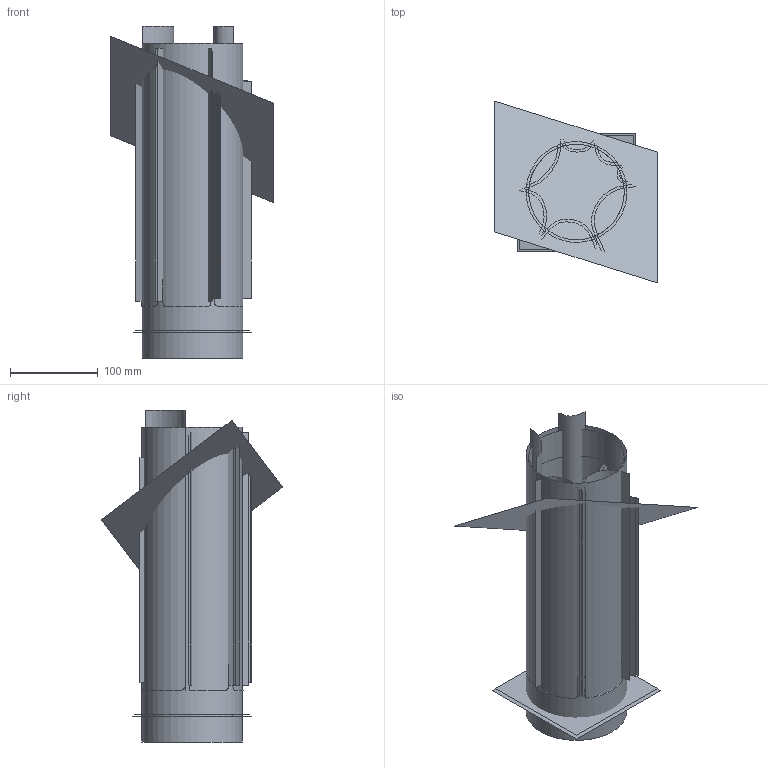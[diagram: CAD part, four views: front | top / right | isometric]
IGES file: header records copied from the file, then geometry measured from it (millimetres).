
Global section: file name: C:\Users\utente\Desktop\3d sito\BAMBU\BAMBU h 30.igs; native system: Rhinoceros ( Mar  9 2011 ); preprocessor: Trout Lake IGES 012 Mar  9 2011; date: 170517.151111; units: millimetre
Bounding box: 185.51 x 207.64 x 378.96 mm (x, y, z)
Surface area: 670588.9 mm2 (no closed solid volume)
Topology: 0 solids, 0 shells, 45 faces, 185 edges, 189 vertices
Faces by surface type: bspline 45
